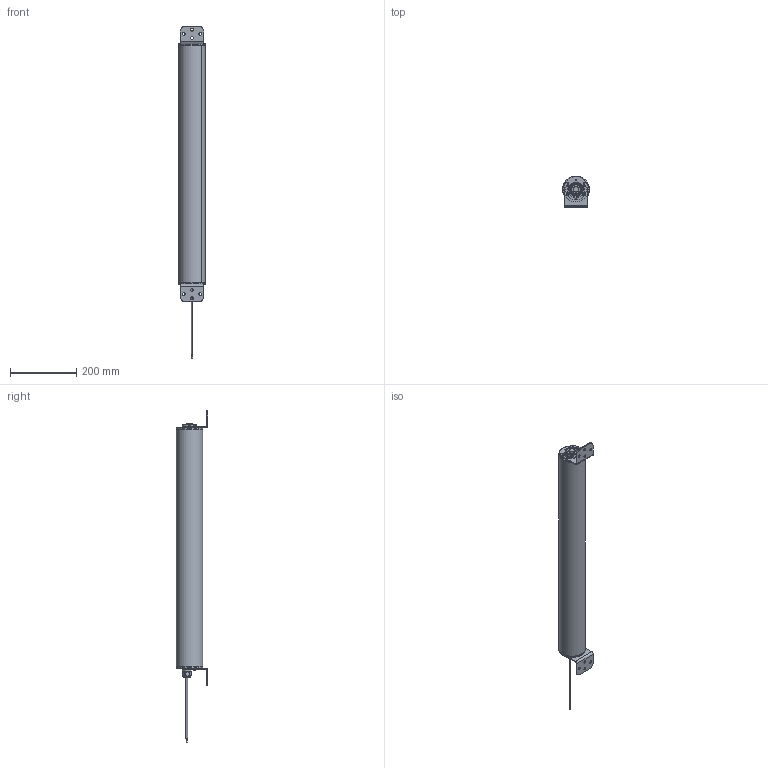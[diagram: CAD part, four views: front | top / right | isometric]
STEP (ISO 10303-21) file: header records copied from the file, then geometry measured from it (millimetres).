
FILE_DESCRIPTION (( 'STEP AP203' ), '1' );
FILE_NAME ('LB9x601.STEP', '2024-08-28T13:43:25', ( '' ), ( '' ), 'SwSTEP 2.0', 'SolidWorks 2021', '' );
FILE_SCHEMA (( 'CONFIG_CONTROL_DESIGN' ));
Length unit declared in the file: millimetre
Products named in the file (7): Cable M12 femelle_1_2; IP69K enclosure adjust_625; 006266-C; 000039_M5x10_1_2; IP69K adjust model_625; 000715_1_2; LB9x601
Assembly tree (10 placements, depth 2):
  LB9x601
    IP69K adjust model_625
    IP69K enclosure adjust_625
    000039_M5x10_1_2  x4
    000715_1_2
    Cable M12 femelle_1_2
    006266-C  x2
Bounding box: 80 x 95 x 1000.7 mm (x, y, z)
Volume: 2004697.7 mm3; surface area: 582611.2 mm2
Topology: 12 solids, 12 shells, 1217 faces, 3219 edges, 2093 vertices
Faces by surface type: plane 665, cylinder 366, bspline 116, cone 64, sphere 4, torus 2
Entity records: 40298 total; most frequent: CARTESIAN_POINT 12064, ORIENTED_EDGE 5894, DIRECTION 5508, EDGE_CURVE 2947, VERTEX_POINT 1928, AXIS2_PLACEMENT_3D 1857, VECTOR 1794, LINE 1794
